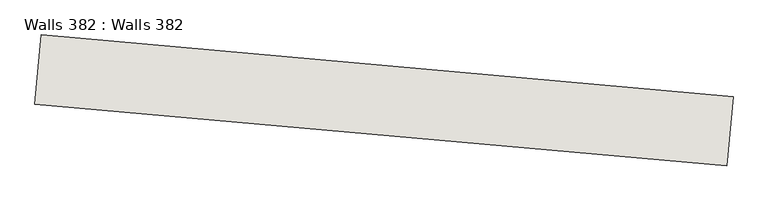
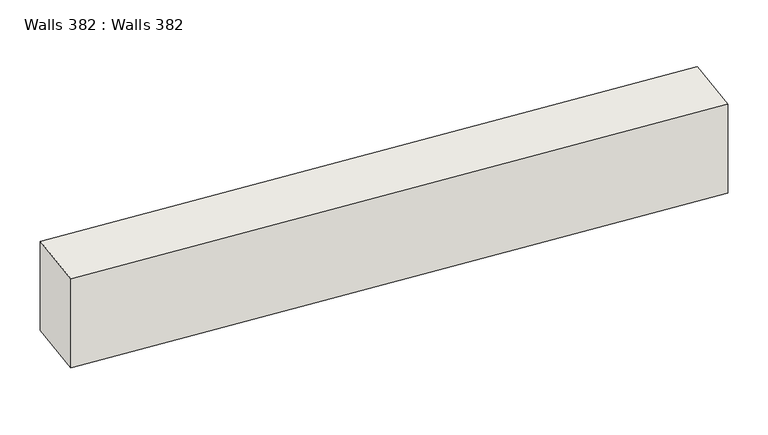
"""IFC4 building model written with IfcOpenShell, lengths in millimetres: wall geometry, Walls 382 : Walls 382."""

from ifc_helpers import new_model, si_unit, frame, origin, place, context, project, spatial, polyline, outline, extrude, source, transform, mapped, element, save


def walls_382_walls_382_490e7db1(model_context):
    return source(origin(), model_context, "Body", "SweptSolid", [
        extrude(outline(polyline([(-626822.9916228, -422836.0276076), (-626858.4865528, -423234.4496325), (-630842.706802, -422879.5003319), (-630807.211872, -422481.078307), (-626822.9916228, -422836.0276076)])), frame((0.0, 0.0, 636360.0), z_axis=(0.0, 0.0, 1.0), x_axis=(1.0, 0.0, 0.0)), (0.0, 0.0, 1.0), 600.0),
    ])


if __name__ == "__main__":
    model = new_model("IFC4")
    model_context = context("Model", 3, world=origin())
    ifc_project = project(units=[si_unit("LENGTHUNIT", "METRE", prefix="MILLI")], contexts=[model_context])
    site = spatial("IfcSite", under=ifc_project)
    building = spatial("IfcBuilding", under=site)
    placement = place(None, origin())
    walls_382_walls_382_shape = walls_382_walls_382_490e7db1(model_context)
    element("IfcWall", 1, ObjectType="Walls 382 : Walls 382", at=placement, inside=building, context=model_context, shape_type="MappedRepresentation", body=[
        mapped(walls_382_walls_382_shape, transform((0.0, 0.0, 0.0), x_axis=(1.0, 0.0, 0.0), y_axis=(0.0, 1.0, 0.0), z_axis=(0.0, 0.0, 1.0))),
    ])
    save(model, "model.ifc")
